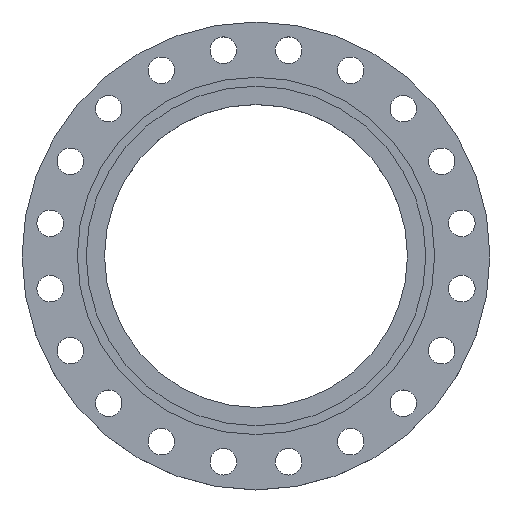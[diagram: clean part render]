
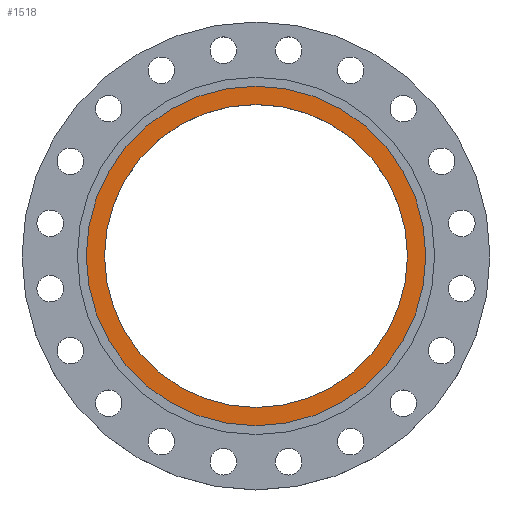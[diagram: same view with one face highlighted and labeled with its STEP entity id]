
A CAD part, top view. The second image highlights one B-rep face of the part: STEP entity #1518.
In plain terms, the highlighted planar face has unit normal (0, 0, 1).
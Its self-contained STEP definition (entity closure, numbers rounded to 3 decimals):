
#37 = EDGE_CURVE ( 'NONE', #1741, #884, #1939, .T. ) ;
#135 = CARTESIAN_POINT ( 'NONE',  ( -221.752, 0., -5.5 ) ) ;
#387 = DIRECTION ( 'NONE',  ( -1., 0., 0. ) ) ;
#388 = DIRECTION ( 'NONE',  ( 0., 0., -1. ) ) ;
#389 = CARTESIAN_POINT ( 'NONE',  ( 0., 0., -5.5 ) ) ;
#400 = CARTESIAN_POINT ( 'NONE',  ( 221.752, 0., -5.5 ) ) ;
#410 = CARTESIAN_POINT ( 'NONE',  ( 248.5, 0., -5.5 ) ) ;
#422 = CARTESIAN_POINT ( 'NONE',  ( -248.5, 0., -5.5 ) ) ;
#466 = DIRECTION ( 'NONE',  ( -1., 0., 0. ) ) ;
#467 = DIRECTION ( 'NONE',  ( 0., 0., -1. ) ) ;
#468 = CARTESIAN_POINT ( 'NONE',  ( 0., 0., -5.5 ) ) ;
#480 = DIRECTION ( 'NONE',  ( 1., 0., 0. ) ) ;
#482 = DIRECTION ( 'NONE',  ( 0., 0., 1. ) ) ;
#483 = CARTESIAN_POINT ( 'NONE',  ( 0., 0., -5.5 ) ) ;
#568 = CARTESIAN_POINT ( 'NONE',  ( 248.5, 0., -5.5 ) ) ;
#626 = AXIS2_PLACEMENT_3D ( 'NONE', #568, #1400, #1910 ) ;
#729 = EDGE_CURVE ( 'NONE', #884, #1741, #941, .T. ) ;
#766 = FACE_BOUND ( 'NONE', #1572, .T. ) ;
#771 = EDGE_CURVE ( 'NONE', #871, #878, #1327, .T. ) ;
#856 = DIRECTION ( 'NONE',  ( 1., 0., 0. ) ) ;
#857 = DIRECTION ( 'NONE',  ( 0., 0., 1. ) ) ;
#858 = CARTESIAN_POINT ( 'NONE',  ( 0., 0., -5.5 ) ) ;
#871 = VERTEX_POINT ( 'NONE', #422 ) ;
#878 = VERTEX_POINT ( 'NONE', #410 ) ;
#884 = VERTEX_POINT ( 'NONE', #400 ) ;
#897 = EDGE_CURVE ( 'NONE', #878, #871, #1373, .T. ) ;
#941 = CIRCLE ( 'NONE', #948, 221.752 ) ;
#948 = AXIS2_PLACEMENT_3D ( 'NONE', #483, #482, #480 ) ;
#1019 = ORIENTED_EDGE ( 'NONE', *, *, #897, .F. ) ;
#1022 = ORIENTED_EDGE ( 'NONE', *, *, #771, .F. ) ;
#1023 = ORIENTED_EDGE ( 'NONE', *, *, #37, .F. ) ;
#1024 = ORIENTED_EDGE ( 'NONE', *, *, #729, .F. ) ;
#1327 = CIRCLE ( 'NONE', #1338, 248.5 ) ;
#1338 = AXIS2_PLACEMENT_3D ( 'NONE', #468, #467, #466 ) ;
#1373 = CIRCLE ( 'NONE', #1375, 248.5 ) ;
#1375 = AXIS2_PLACEMENT_3D ( 'NONE', #389, #388, #387 ) ;
#1400 = DIRECTION ( 'NONE',  ( 0., 0., 1. ) ) ;
#1484 = AXIS2_PLACEMENT_3D ( 'NONE', #858, #857, #856 ) ;
#1491 = FACE_OUTER_BOUND ( 'NONE', #1547, .T. ) ;
#1518 = ADVANCED_FACE ( 'NONE', ( #766, #1491 ), #1950, .T. ) ;
#1547 = EDGE_LOOP ( 'NONE', ( #1022, #1019 ) ) ;
#1572 = EDGE_LOOP ( 'NONE', ( #1024, #1023 ) ) ;
#1741 = VERTEX_POINT ( 'NONE', #135 ) ;
#1910 = DIRECTION ( 'NONE',  ( 1., 0., 0. ) ) ;
#1939 = CIRCLE ( 'NONE', #1484, 221.752 ) ;
#1950 = PLANE ( 'NONE',  #626 ) ;
